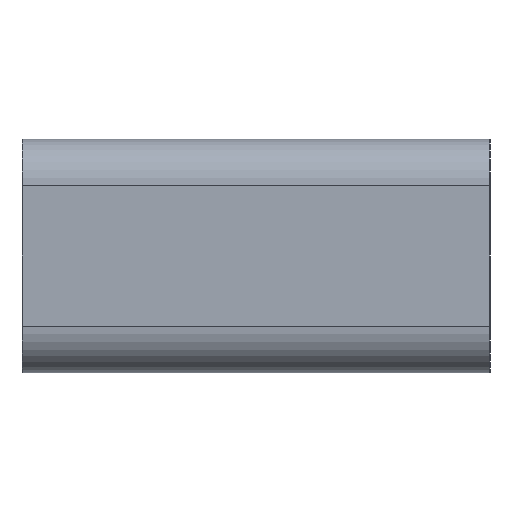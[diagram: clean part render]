
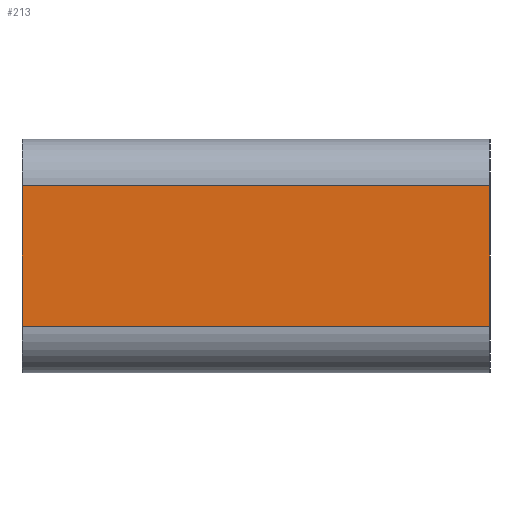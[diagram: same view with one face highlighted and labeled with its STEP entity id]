
A CAD part, left-side view. The second image highlights one B-rep face of the part: STEP entity #213.
In plain terms, the highlighted planar face has unit normal (-1, 0, 0).
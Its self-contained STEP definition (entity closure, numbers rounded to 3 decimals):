
#213=ADVANCED_FACE('',(#412),#413,.T.);
#412=FACE_OUTER_BOUND('',#598,.T.);
#413=PLANE('',#599);
#598=EDGE_LOOP('',(#1083,#1084,#1085,#1086));
#599=AXIS2_PLACEMENT_3D('',#1087,#1088,#1089);
#1083=ORIENTED_EDGE('',*,*,#1361,.T.);
#1084=ORIENTED_EDGE('',*,*,#1342,.F.);
#1085=ORIENTED_EDGE('',*,*,#1265,.F.);
#1086=ORIENTED_EDGE('',*,*,#1359,.T.);
#1087=CARTESIAN_POINT('',(-20.0,10.0,0.0));
#1088=DIRECTION('',(-1.0,0.0,0.0));
#1089=DIRECTION('',(0.0,0.0,-1.0));
#1265=EDGE_CURVE('',#1542,#1544,#1545,.T.);
#1342=EDGE_CURVE('',#1544,#1654,#1658,.T.);
#1359=EDGE_CURVE('',#1542,#1678,#1680,.T.);
#1361=EDGE_CURVE('',#1678,#1654,#1682,.T.);
#1542=VERTEX_POINT('',#1917);
#1544=VERTEX_POINT('',#1919);
#1545=LINE('',#1920,#1921);
#1654=VERTEX_POINT('',#2065);
#1658=LINE('',#2070,#2071);
#1678=VERTEX_POINT('',#2098);
#1680=LINE('',#2100,#2101);
#1682=LINE('',#2103,#2104);
#1917=CARTESIAN_POINT('',(-20.0,10.0,-3.0));
#1919=CARTESIAN_POINT('',(-20.0,10.0,3.0));
#1920=CARTESIAN_POINT('',(-20.0,10.0,-3.0));
#1921=VECTOR('',#2266,1.0);
#2065=CARTESIAN_POINT('',(-20.0,-10.0,3.0));
#2070=CARTESIAN_POINT('',(-20.0,10.0,3.0));
#2071=VECTOR('',#2363,1.0);
#2098=CARTESIAN_POINT('',(-20.0,-10.0,-3.0));
#2100=CARTESIAN_POINT('',(-20.0,10.0,-3.0));
#2101=VECTOR('',#2380,1.0);
#2103=CARTESIAN_POINT('',(-20.0,-10.0,-3.0));
#2104=VECTOR('',#2381,1.0);
#2266=DIRECTION('',(0.0,0.0,1.0));
#2363=DIRECTION('',(0.0,-1.0,0.0));
#2380=DIRECTION('',(0.0,-1.0,0.0));
#2381=DIRECTION('',(0.0,0.0,1.0));
